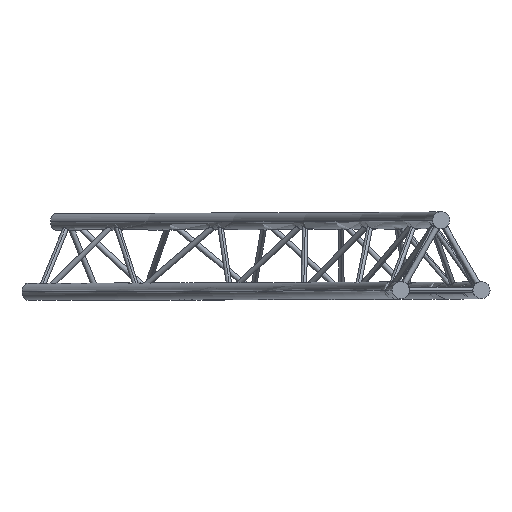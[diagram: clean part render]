
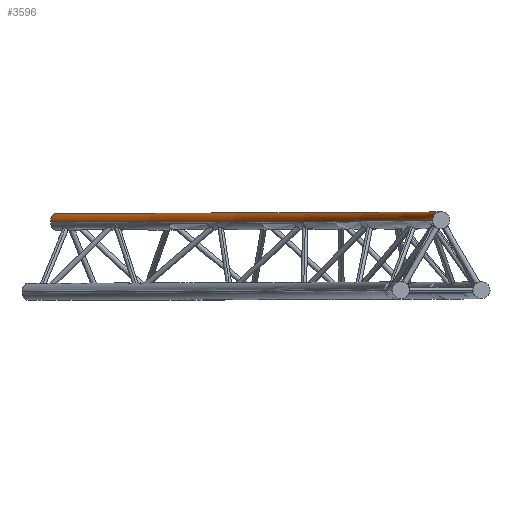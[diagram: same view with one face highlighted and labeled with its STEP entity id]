
A CAD part, top view. The second image highlights one B-rep face of the part: STEP entity #3596.
In plain terms, the highlighted toroidal (fillet/blend) face has major radius 3856.5 mm and minor radius 25 mm.
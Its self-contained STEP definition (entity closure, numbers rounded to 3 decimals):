
#343 = EDGE_CURVE ( 'NONE', #424, #446, #7484, .T. ) ;
#361 = VERTEX_POINT ( 'NONE', #7940 ) ;
#392 = VERTEX_POINT ( 'NONE', #8057 ) ;
#424 = VERTEX_POINT ( 'NONE', #8427 ) ;
#446 = VERTEX_POINT ( 'NONE', #8808 ) ;
#463 = EDGE_CURVE ( 'NONE', #361, #392, #8773, .T. ) ;
#1916 = DIRECTION ( 'NONE',  ( 1., 0., 0. ) ) ;
#1917 = DIRECTION ( 'NONE',  ( 0., 0., 1. ) ) ;
#1918 = CARTESIAN_POINT ( 'NONE',  ( 3856.5, 136.832, 0. ) ) ;
#1919 = AXIS2_PLACEMENT_3D ( 'NONE', #1918, #1917, #1916 ) ;
#1920 = CIRCLE ( 'NONE', #1919, 25. ) ;
#2309 = DIRECTION ( 'NONE',  ( 0.707, 0., -0.707 ) ) ;
#2310 = DIRECTION ( 'NONE',  ( 0.707, 0., 0.707 ) ) ;
#2311 = CARTESIAN_POINT ( 'NONE',  ( 2726.957, 136.832, -2726.957 ) ) ;
#2312 = AXIS2_PLACEMENT_3D ( 'NONE', #2311, #2310, #2309 ) ;
#2313 = CIRCLE ( 'NONE', #2312, 25. ) ;
#2608 = DIRECTION ( 'NONE',  ( 0., 0., -1. ) ) ;
#2609 = DIRECTION ( 'NONE',  ( 0., -1., 0. ) ) ;
#2611 = CARTESIAN_POINT ( 'NONE',  ( 0., 136.832, 0. ) ) ;
#2612 = AXIS2_PLACEMENT_3D ( 'NONE', #2611, #2609, #2608 ) ;
#2745 = TOROIDAL_SURFACE ( 'NONE', #2612, 3856.5, 25. ) ;
#2746 = FACE_OUTER_BOUND ( 'NONE', #3597, .T. ) ;
#3480 = ORIENTED_EDGE ( 'NONE', *, *, #3481, .F. ) ;
#3481 = EDGE_CURVE ( 'NONE', #446, #392, #1920, .T. ) ;
#3540 = ORIENTED_EDGE ( 'NONE', *, *, #3541, .T. ) ;
#3541 = EDGE_CURVE ( 'NONE', #424, #361, #2313, .T. ) ;
#3555 = ORIENTED_EDGE ( 'NONE', *, *, #463, .T. ) ;
#3594 = ORIENTED_EDGE ( 'NONE', *, *, #343, .F. ) ;
#3596 = ADVANCED_FACE ( 'NONE', ( #2746 ), #2745, .T. ) ;
#3597 = EDGE_LOOP ( 'NONE', ( #3594, #3540, #3555, #3480 ) ) ;
#7480 = DIRECTION ( 'NONE',  ( 0., 0., -1. ) ) ;
#7481 = DIRECTION ( 'NONE',  ( 0., -1., 0. ) ) ;
#7482 = CARTESIAN_POINT ( 'NONE',  ( 0., 136.832, 0. ) ) ;
#7483 = AXIS2_PLACEMENT_3D ( 'NONE', #7482, #7481, #7480 ) ;
#7484 = CIRCLE ( 'NONE', #7483, 3881.5 ) ;
#7940 = CARTESIAN_POINT ( 'NONE',  ( 2709.28, 136.832, -2709.28 ) ) ;
#8057 = CARTESIAN_POINT ( 'NONE',  ( 3831.5, 136.832, 0. ) ) ;
#8427 = CARTESIAN_POINT ( 'NONE',  ( 2744.635, 136.832, -2744.635 ) ) ;
#8769 = DIRECTION ( 'NONE',  ( 0., 0., -1. ) ) ;
#8770 = DIRECTION ( 'NONE',  ( 0., -1., 0. ) ) ;
#8771 = CARTESIAN_POINT ( 'NONE',  ( 0., 136.832, 0. ) ) ;
#8772 = AXIS2_PLACEMENT_3D ( 'NONE', #8771, #8770, #8769 ) ;
#8773 = CIRCLE ( 'NONE', #8772, 3831.5 ) ;
#8808 = CARTESIAN_POINT ( 'NONE',  ( 3881.5, 136.832, 0. ) ) ;
